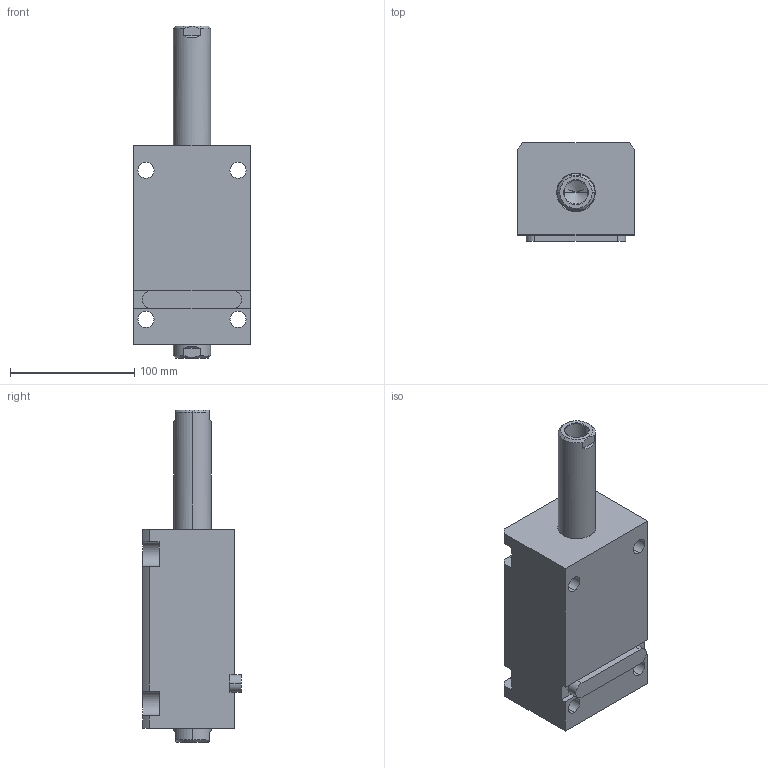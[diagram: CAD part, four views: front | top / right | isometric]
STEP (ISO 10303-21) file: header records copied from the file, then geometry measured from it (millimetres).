
FILE_DESCRIPTION (( 'STEP AP203' ), '1' );
FILE_NAME ('CHTB-LW50-85N.STEP', '2018-05-18T09:10:34', ( '' ), ( '' ), 'SwSTEP 2.0', 'SolidWorks 2015', '' );
FILE_SCHEMA (( 'CONFIG_CONTROL_DESIGN' ));
Length unit declared in the file: millimetre
Products named in the file (4): CHTM-SDMA50QG; 活塞杆LW50-85N; CHTB-LW50-85N; 掛极LW50-85N
Assembly tree (3 placements, depth 2):
  CHTB-LW50-85N
    掛极LW50-85N
    活塞杆LW50-85N
    CHTM-SDMA50QG
Bounding box: 94 x 79 x 267 mm (x, y, z)
Volume: 1007792.1 mm3; surface area: 151632.2 mm2
Topology: 3 solids, 3 shells, 221 faces, 588 edges, 385 vertices
Faces by surface type: cylinder 102, plane 58, cone 31, torus 16, bspline 14
Entity records: 11831 total; most frequent: CARTESIAN_POINT 6126, ORIENTED_EDGE 1160, DIRECTION 1056, EDGE_CURVE 580, AXIS2_PLACEMENT_3D 416, VERTEX_POINT 385, EDGE_LOOP 257, LINE 224
